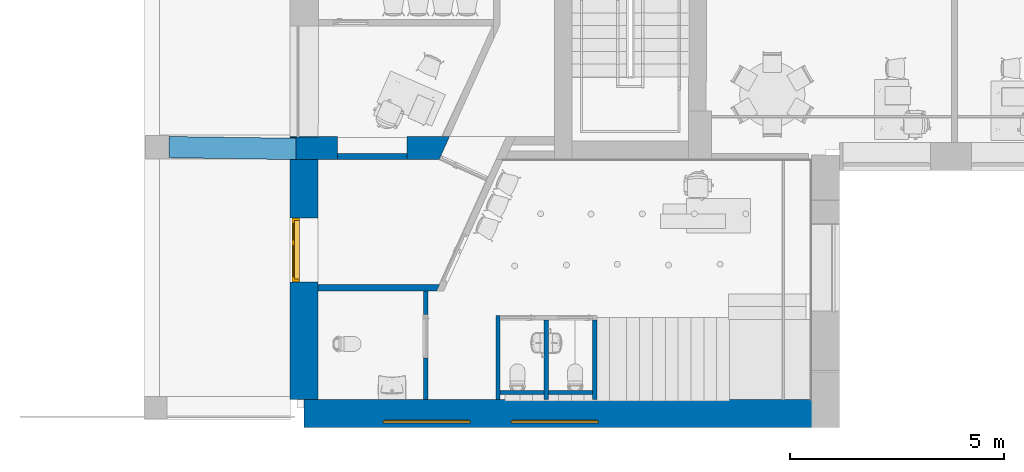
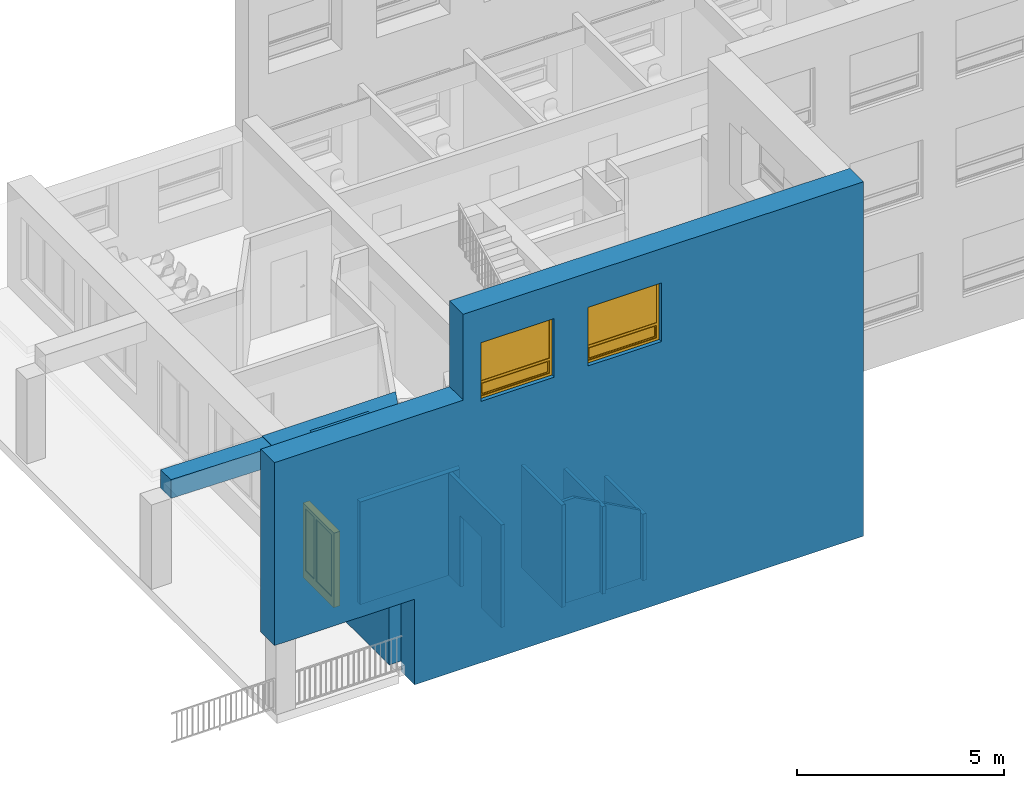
"""IFC2X3 building model written with IfcOpenShell, lengths in millimetres."""

from ifc_helpers import new_model, entity, si_unit, converted_unit, derived_unit, direction, frame, frame_2d, origin, origin_2d_with_axis, place, context, subcontext, project, spatial, polyline, rectangle, outline, extrude, clip, halfspace, bounded_halfspace, faceted_brep, source, transform, mapped, material, material_list, layer, layer_set, layer_usage, type_object, type_shapes, element, fill, save


model = new_model("IFC2X3")

# Units and contexts
model_context = context("Model", 3, precision=0.01, world=origin(), true_north=direction((6.12303176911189e-17, 1.0)))
context_of_model = context(None, 3, precision=0.01, world=origin(), true_north=direction((6.12303176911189e-17, 1.0)))
body_context = subcontext(model_context, "Body", "Model", "MODEL_VIEW")
ifc_project = project(units=[si_unit("LENGTHUNIT", "METRE", prefix="MILLI"), si_unit("AREAUNIT", "SQUARE_METRE"), si_unit("VOLUMEUNIT", "CUBIC_METRE"), converted_unit("PLANEANGLEUNIT", "DEGREE", entity("IfcRatioMeasure", 0.0174532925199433), si_unit("PLANEANGLEUNIT", "RADIAN"), dimensions=[0, 0, 0, 0, 0, 0, 0]), si_unit("MASSUNIT", "GRAM", prefix="KILO"), derived_unit("MASSDENSITYUNIT", [(si_unit("MASSUNIT", "GRAM", prefix="KILO"), 1), (si_unit("LENGTHUNIT", "METRE"), -3)]), si_unit("TIMEUNIT", "SECOND"), si_unit("FREQUENCYUNIT", "HERTZ"), si_unit("THERMODYNAMICTEMPERATUREUNIT", "DEGREE_CELSIUS"), derived_unit("THERMALTRANSMITTANCEUNIT", [(si_unit("MASSUNIT", "GRAM", prefix="KILO"), 1), (si_unit("THERMODYNAMICTEMPERATUREUNIT", "KELVIN"), -1), (si_unit("TIMEUNIT", "SECOND"), -3)]), derived_unit("VOLUMETRICFLOWRATEUNIT", [(si_unit("LENGTHUNIT", "METRE"), 3), (si_unit("TIMEUNIT", "SECOND"), -1)]), si_unit("ELECTRICCURRENTUNIT", "AMPERE"), si_unit("ELECTRICVOLTAGEUNIT", "VOLT"), si_unit("POWERUNIT", "WATT"), si_unit("FORCEUNIT", "NEWTON", prefix="KILO"), si_unit("ILLUMINANCEUNIT", "LUX"), si_unit("LUMINOUSFLUXUNIT", "LUMEN"), si_unit("LUMINOUSINTENSITYUNIT", "CANDELA"), derived_unit("USERDEFINED", [(si_unit("MASSUNIT", "GRAM", prefix="KILO"), -1), (si_unit("LENGTHUNIT", "METRE"), -2), (si_unit("TIMEUNIT", "SECOND"), 3), (si_unit("LUMINOUSFLUXUNIT", "LUMEN"), 1)]), derived_unit("LINEARVELOCITYUNIT", [(si_unit("LENGTHUNIT", "METRE"), 1), (si_unit("TIMEUNIT", "SECOND"), -1)]), si_unit("PRESSUREUNIT", "PASCAL"), derived_unit("USERDEFINED", [(si_unit("LENGTHUNIT", "METRE"), -2), (si_unit("MASSUNIT", "GRAM", prefix="KILO"), 1), (si_unit("TIMEUNIT", "SECOND"), -2)])], contexts=[model_context, context_of_model])

# Site, building, storey
site_placement = place(None, frame((121442.264707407, 135347.995453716, -1800.0)))
site = spatial("IfcSite", under=ifc_project, at=site_placement, Name="Surface", CompositionType="ELEMENT")
building_placement = place(site_placement, origin())
building = spatial("IfcBuilding", under=site, at=building_placement, CompositionType="ELEMENT")
storey_1_placement = place(building_placement, frame((0.0, 0.0, 1800.0)))
storey_1 = spatial("IfcBuildingStorey", under=building, at=storey_1_placement, Name="1 korrus", CompositionType="ELEMENT", Elevation=1800.00000000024)

# Wall, openings
ifc_material_1 = material(Name="__Betoonelement")
ifc_layer_1 = layer(ifc_material_1, 540.0)
ifc_layer_set_1 = layer_set([ifc_layer_1], Name="Basic Wall:54_Betoon 2")
ifc_layer_usage_1 = layer_usage(ifc_layer_set_1, "AXIS2", "NEGATIVE", 270.0)
wall_type_1 = type_object("IfcWallType", Name="Basic Wall:54_Betoon 2", PredefinedType="STANDARD", material=ifc_layer_set_1)
wall_1_placement = place(storey_1_placement, frame((-112155.05905755, -127271.313002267, 0.0), z_axis=(0.0, 0.0, 1.0), x_axis=(-1.0, 0.0, 0.0)))
wall_1 = element("IfcWallStandardCase", 1, at=wall_1_placement, inside=storey_1, type_object=wall_type_1, material=ifc_layer_usage_1, Name="Basic Wall:54_Betoon 2", ObjectType="Basic Wall:54_Betoon 2", context=body_context, shape_type="Clipping", body=[
    clip(extrude(outline(polyline([(0.0, -270.0), (3730.71755296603, -270.0), (3730.71755296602, 270.0), (3070.71755296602, 270.0), (243.760106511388, 270.0), (0.0, -270.0)])), origin(), (0.0, 0.0, 1.0), 3032.0), bounded_halfspace(frame((0.0, -270.0, 3032.0), z_axis=(0.0, 0.0, -1.0), x_axis=(0.0, 1.0, 0.0)), True, frame((0.0, -270.0, 3032.0)), polyline([(0.0, 0.0), (3730.71755296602, 0.0), (3730.71755296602, 540.0), (3070.71755296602, 540.0), (243.760106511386, 540.0), (0.0, 0.0)]))),
])
opening_1_placement = place(wall_1_placement, origin())
element("IfcOpeningElement", 2, at=opening_1_placement, cuts=wall_1, Name="Basic Wall:54_Betoon 2", ObjectType="Opening", context=body_context, shape_type="SweptSolid", body=[
    extrude(rectangle(XDim=2438.4, YDim=1622.3430417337, at=origin_2d_with_axis()), frame((1807.14882785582, -270.0, 1219.2), z_axis=(0.0, 1.0, 0.0), x_axis=(0.0, 0.0, -1.0)), (0.0, 0.0, 1.0), 540.000000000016),
])
opening_2_placement = place(wall_1_placement, origin())
element("IfcOpeningElement", 3, at=opening_2_placement, cuts=wall_1, Name="Basic Wall:54_Betoon 2", ObjectType="Opening", context=body_context, shape_type="SweptSolid", body=[
    extrude(rectangle(XDim=1860.0, YDim=670.000000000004, at=frame_2d((-8.66862137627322e-12, 0.0), x_axis=(0.0, 1.0))), frame((3395.71755296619, -2854.8484318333, 1490.0), z_axis=(0.0, 1.0, 0.0), x_axis=(-1.0, 0.0, 0.0)), (0.0, 0.0, 1.0), 2590.0),
])

# Wall
wall_type_2 = type_object("IfcWallType", Name="Walls 52:Walls 52", PredefinedType="NOTDEFINED")
wall_2_placement = place(storey_1_placement, frame((-118715.335878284, -127540.468096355, 2472.33300325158)))
element("IfcWall", 4, at=wall_2_placement, inside=storey_1, type_object=wall_type_2, Name="Walls 52:Walls 52", ObjectType="Walls 52:Walls 52", context=body_context, shape_type="SweptSolid", body=[
    extrude(outline(polyline([(-1483.24836927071, -249.605204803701), (1490.10306328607, -249.605204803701), (1483.28856120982, 246.678125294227), (-1490.14325522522, 252.532284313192), (-1483.24836927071, -249.605204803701)])), frame((1486.53558543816, 272.967816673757, 0.0), z_axis=(0.0, 0.0, 1.0), x_axis=(-0.999905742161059, 0.0137297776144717, 0.0)), (0.0, 0.0, 1.0), 552.068382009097),
])

# Wall, openings
ifc_material_2 = material(Name="Plaster")
ifc_layer_2 = layer(ifc_material_2, 10.0)
ifc_material_3 = material(Name="Polystyrene, Expanded")
ifc_layer_3 = layer(ifc_material_3, 150.0)
ifc_layer_4 = layer(ifc_material_1, 500.0)
ifc_layer_set_2 = layer_set([ifc_layer_2, ifc_layer_3, ifc_layer_4], Name="Basic Wall:50_Betoon + UUS Soojustus 2")
ifc_layer_usage_2 = layer_usage(ifc_layer_set_2, "AXIS2", "NEGATIVE", 330.0)
wall_type_3 = type_object("IfcWallType", Name="Basic Wall:50_Betoon + UUS Soojustus 2", PredefinedType="STANDARD", material=ifc_layer_set_2)
wall_3_placement = place(storey_1_placement, frame((-103030.469884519, -133480.927165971, -300.0), z_axis=(0.0, 0.0, 1.0), x_axis=(-1.0, 0.0, 0.0)))
wall_3 = element("IfcWallStandardCase", 5, at=wall_3_placement, inside=storey_1, type_object=wall_type_3, material=ifc_layer_usage_2, Name="Basic Wall:50_Betoon + UUS Soojustus 2", ObjectType="Basic Wall:50_Betoon + UUS Soojustus 2", context=body_context, shape_type="SweptSolid", body=[
    extrude(rectangle(XDim=16443.2562224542, YDim=659.999999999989, at=frame_2d((8221.62811122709, 1.02318153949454e-12), x_axis=(-1.0, 0.0))), origin(), (0.0, 0.0, 1.0), 10460.0),
])
opening_3_placement = place(wall_3_placement, origin())
element("IfcOpeningElement", 6, at=opening_3_placement, cuts=wall_3, Name="Basic Wall:50_Betoon + UUS Soojustus 2", ObjectType="Opening", context=body_context, shape_type="SweptSolid", body=[
    extrude(rectangle(XDim=2534.99999999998, YDim=5272.60453583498, at=frame_2d((5.6843418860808e-13, 8.64019966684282e-12), x_axis=(1.0, 0.0))), frame((13806.9539545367, 330.0, 9192.5), z_axis=(0.0, -1.0, 0.0), x_axis=(0.0, 0.0, -1.0)), (0.0, 0.0, 1.0), 660.0),
])
opening_4_placement = place(wall_3_placement, origin())
element("IfcOpeningElement", 7, at=opening_4_placement, cuts=wall_3, Name="Basic Wall:50_Betoon + UUS Soojustus 2", ObjectType="Opening", context=body_context, shape_type="SweptSolid", body=[
    extrude(rectangle(XDim=2525.00000000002, YDim=3917.94949645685, at=frame_2d((8.64019966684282e-12, -5.6843418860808e-13), x_axis=(0.0, 1.0))), frame((14484.2814742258, 330.0, 1262.50000000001), z_axis=(0.0, -1.0, 0.0), x_axis=(-1.0, 0.0, 0.0)), (0.0, 0.0, 1.0), 660.0),
])
opening_5_placement = place(wall_3_placement, frame((5640.05621160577, -330.0, 7715.0)))
opening_5 = element("IfcOpeningElement", 8, at=opening_5_placement, cuts=wall_3, Name="sma_W2:A-1 UUS 2050 x 1730mm Avatav:1", ObjectType="Opening", context=body_context, shape_type="SweptSolid", body=[
    extrude(rectangle(XDim=1730.0, YDim=2050.0, at=frame_2d((865.0, 1025.0), x_axis=(1.0, 0.0))), frame((0.0, 0.0, 0.0), z_axis=(0.0, 1.0, 0.0), x_axis=(0.0, 0.0, 1.0)), (0.0, 0.0, 1.0), 660.0),
])
opening_6_placement = place(wall_3_placement, frame((8630.05621160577, -330.0, 7715.0)))
opening_6 = element("IfcOpeningElement", 9, at=opening_6_placement, cuts=wall_3, Name="sma_W2:A-1 UUS 2050 x 1730mm Avatav:1", ObjectType="Opening", context=body_context, shape_type="SweptSolid", body=[
    extrude(rectangle(XDim=1730.0, YDim=2050.0, at=frame_2d((865.0, 1025.0), x_axis=(1.0, 0.0))), frame((0.0, 0.0, 0.0), z_axis=(0.0, 1.0, 0.0), x_axis=(0.0, 0.0, 1.0)), (0.0, 0.0, 1.0), 660.0),
])

# Storey
storey_2_placement = place(building_placement, frame((0.0, 0.0, 8315.0)))
storey_2 = spatial("IfcBuildingStorey", under=building, at=storey_2_placement, Name="3 korrus", CompositionType="ELEMENT", Elevation=8315.00000000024)

# Window
ifc_material_4 = material(Name="PVC")
ifc_material_5 = material(Name="Glass")
ifc_material_list_1 = material_list([ifc_material_4, ifc_material_5])
ifc_material_list_2 = material_list([ifc_material_4, ifc_material_5])
window_style = type_object("IfcWindowStyle", Name="A-1 UUS 2050 x 1730mm Avatav", ConstructionType="NOTDEFINED", OperationType="NOTDEFINED", ParameterTakesPrecedence=False, Sizeable=False, material=ifc_material_list_2)
shared_shape_1 = source(origin(), body_context, "Body", "Brep", [
    faceted_brep([(0.0, 499.759876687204, 0.0), (2050.0, 499.759876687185, 0.0), (2050.0, 499.759876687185, 1730.0), (0.0, 499.759876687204, 1730.0), (35.0, 499.759876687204, 35.0), (35.0, 499.759876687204, 480.0), (2015.0, 499.759876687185, 480.0), (2015.0, 499.759876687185, 35.0), (1980.0, 499.759876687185, 515.0), (70.0, 499.759876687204, 515.0), (70.0, 499.759876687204, 1660.0), (1980.0, 499.759876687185, 1660.0), (0.0, 549.759876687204, 0.0), (2050.0, 549.759876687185, 0.0), (2050.0, 549.759876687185, 1730.0), (0.0, 549.759876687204, 1730.0), (35.0, 524.759876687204, 35.0), (35.0, 524.759876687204, 480.0), (2015.0, 524.759876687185, 480.0), (2015.0, 524.759876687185, 35.0), (70.0, 549.759876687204, 70.0), (1980.0, 549.759876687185, 70.0), (1980.0, 549.759876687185, 445.0), (70.0, 549.759876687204, 445.0), (1980.0, 549.759876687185, 515.0), (1980.0, 549.759876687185, 1660.0), (70.0, 549.759876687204, 1660.0), (70.0, 549.759876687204, 515.0), (70.0, 524.759876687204, 70.0), (1980.0, 524.759876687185, 70.0), (1980.0, 524.759876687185, 445.0), (70.0, 524.759876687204, 445.0)], [[[0, 1, 2, 3], [4, 5, 6, 7], [8, 9, 10, 11]], [[1, 0, 12, 13]], [[2, 1, 13, 14]], [[0, 3, 15, 12]], [[16, 17, 5, 4]], [[18, 19, 7, 6]], [[19, 16, 4, 7]], [[12, 15, 14, 13], [20, 21, 22, 23], [24, 25, 26, 27]], [[21, 20, 28, 29]], [[22, 21, 29, 30]], [[20, 23, 31, 28]], [[17, 16, 19, 18], [28, 31, 30, 29]], [[3, 2, 14, 15]], [[10, 9, 27, 26]], [[11, 10, 26, 25]], [[8, 11, 25, 24]], [[23, 22, 30, 31]], [[9, 8, 24, 27]], [[17, 18, 6, 5]]]),
    faceted_brep([(105.0, 489.759876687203, 105.0), (1945.0, 489.759876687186, 105.0), (1945.0, 489.759876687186, 410.0), (105.0, 489.759876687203, 410.0), (105.0, 509.759876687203, 105.0), (1945.0, 509.759876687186, 105.0), (1945.0, 509.759876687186, 410.0), (105.0, 509.759876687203, 410.0)], [[[0, 1, 2, 3]], [[1, 0, 4, 5]], [[2, 1, 5, 6]], [[0, 3, 7, 4]], [[4, 7, 6, 5]], [[3, 2, 6, 7]]]),
    faceted_brep([(35.0, 474.759876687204, 35.0), (2015.0, 474.759876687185, 35.0), (2015.0, 474.759876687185, 480.0), (35.0, 474.759876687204, 480.0), (105.0, 474.759876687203, 105.0), (105.0, 474.759876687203, 410.0), (1945.0, 474.759876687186, 410.0), (1945.0, 474.759876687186, 105.0), (35.0, 524.759876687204, 35.0), (2015.0, 524.759876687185, 35.0), (2015.0, 524.759876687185, 480.0), (35.0, 524.759876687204, 480.0), (105.0, 524.759876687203, 105.0), (105.0, 524.759876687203, 410.0), (1945.0, 524.759876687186, 410.0), (1945.0, 524.759876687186, 105.0)], [[[0, 1, 2, 3], [4, 5, 6, 7]], [[1, 0, 8, 9]], [[2, 1, 9, 10]], [[0, 3, 11, 8]], [[5, 4, 12, 13]], [[7, 6, 14, 15]], [[4, 7, 15, 12]], [[8, 11, 10, 9], [12, 15, 14, 13]], [[3, 2, 10, 11]], [[6, 5, 13, 14]]]),
    faceted_brep([(70.0, 514.759876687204, 515.0), (1980.0, 514.759876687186, 515.0), (1980.0, 514.759876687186, 1660.0), (70.0, 514.759876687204, 1660.0), (1980.0, 534.759876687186, 515.0), (1980.0, 534.759876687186, 1660.0), (70.0, 534.759876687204, 1660.0), (70.0, 534.759876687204, 515.0)], [[[0, 1, 2, 3]], [[2, 1, 4, 5]], [[3, 2, 5, 6]], [[0, 3, 6, 7]], [[7, 6, 5, 4]], [[1, 0, 7, 4]]]),
])
type_shapes(window_style, [shared_shape_1])
window_1_placement = place(opening_5_placement, origin())
window_1 = element("IfcWindow", 10, at=window_1_placement, inside=storey_2, type_object=window_style, material=ifc_material_list_1, Name="sma_W2:A-1 UUS 2050 x 1730mm Avatav", ObjectType="A-1 UUS 2050 x 1730mm Avatav", OverallHeight=1730.0, OverallWidth=2050.0, context=body_context, shape_type="MappedRepresentation", body=[
    mapped(shared_shape_1, transform((0.0, 0.0, 0.0), scale=1.0)),
])

fill(opening_5, window_1)

ifc_material_list_3 = material_list([ifc_material_4, ifc_material_5])
window_2_placement = place(opening_6_placement, origin())
window_2 = element("IfcWindow", 11, at=window_2_placement, inside=storey_2, type_object=window_style, material=ifc_material_list_3, Name="sma_W2:A-1 UUS 2050 x 1730mm Avatav", ObjectType="A-1 UUS 2050 x 1730mm Avatav", OverallHeight=1730.0, OverallWidth=2050.0, context=body_context, shape_type="MappedRepresentation", body=[
    mapped(shared_shape_1, transform((0.0, 0.0, 0.0), scale=1.0)),
])

fill(opening_6, window_2)

# Wall, opening, door
ifc_layer_usage_3 = layer_usage(ifc_layer_set_2, "AXIS2", "POSITIVE", -330.0)
wall_4_placement = place(storey_1_placement, frame((-115555.776610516, -127541.313002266, 0.0), z_axis=(0.0, 0.0, 1.0), x_axis=(0.0, -1.0, 0.0)))
wall_4 = element("IfcWallStandardCase", 12, at=wall_4_placement, inside=storey_1, type_object=wall_type_3, material=ifc_layer_usage_3, Name="Basic Wall:50_Betoon + UUS Soojustus 2", ObjectType="Basic Wall:50_Betoon + UUS Soojustus 2", context=body_context, shape_type="Clipping", body=[
    clip(extrude(rectangle(XDim=5609.61416370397, YDim=659.999999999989, at=frame_2d((2804.80708185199, -1.79056769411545e-12), x_axis=(-1.0, 0.0))), origin(), (0.0, 0.0, 1.0), 3032.0), bounded_halfspace(frame((0.0, -330.0, 3032.0), z_axis=(0.0, 0.0, -1.0), x_axis=(1.0, 0.0, 0.0)), True, frame((0.0, -330.0, 3032.0)), polyline([(0.0, 0.0), (5609.61416370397, 0.0), (5609.61416370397, 660.0), (0.0, 660.0), (0.0, 0.0)]))),
])
opening_7_placement = place(wall_4_placement, frame((2855.15156816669, 330.0, 0.0)))
opening_7 = element("IfcOpeningElement", 13, at=opening_7_placement, cuts=wall_4, Name="ULO1 - ulkolasipariovi:1400x2200 VU-2 Välisuks:1", ObjectType="Opening", context=body_context, shape_type="SweptSolid", body=[
    extrude(rectangle(XDim=2200.0, YDim=1490.0, at=frame_2d((1100.0, 745.000000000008), x_axis=(1.0, 0.0))), frame((0.0, 0.0, 0.0), z_axis=(0.0, -1.0, 0.0), x_axis=(0.0, 0.0, 1.0)), (0.0, 0.0, 1.0), 660.0),
])
ifc_material_6 = material(Name="Metal - Paint Finish - Grey")
ifc_material_7 = material(Name="Metal")
ifc_material_8 = material(Name="Lasi - 1 lasilevy, kuvio")
ifc_material_9 = material(Name="RAL Classic 9010, matta, ruisku")
ifc_material_list_4 = material_list([ifc_material_6, ifc_material_7, ifc_material_8, ifc_material_9])
ifc_material_list_5 = material_list([ifc_material_6, ifc_material_7, ifc_material_8, ifc_material_9])
door_style = type_object("IfcDoorStyle", Name="1400x2200 VU-2 Välisuks", ConstructionType="USERDEFINED", OperationType="DOUBLE_DOOR_SINGLE_SWING", ParameterTakesPrecedence=False, Sizeable=False, material=ifc_material_list_5)
shared_shape_2 = source(origin(), body_context, "Body", "SweptSolid", [
    extrude(outline(polyline([(685.0, -1085.0), (745.0, -1085.0), (745.0, 1115.0), (-745.0, 1115.0), (-745.0, -1085.0), (-685.0, -1085.0), (-685.0, 1055.0), (685.0, 1055.0), (685.0, -1085.0)])), frame((1024.99997999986, 136.0, 1085.0), z_axis=(0.0, -1.0, 0.0), x_axis=(1.0, 0.0, 0.0)), (0.0, 0.0, 1.0), 175.0),
    extrude(rectangle(XDim=1369.99999999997, YDim=174.999999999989, at=origin_2d_with_axis()), frame((1024.99997999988, 48.4999999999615, 0.0)), (0.0, 0.0, 1.0), 15.0),
    extrude(rectangle(XDim=750.000000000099, YDim=20.0000000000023, at=origin_2d_with_axis()), frame((764.999979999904, 106.0, 265.0)), (0.0, 0.0, 1.0), 1825.0),
    extrude(rectangle(XDim=419.999999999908, YDim=20.0000000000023, at=frame_2d((-2.8421709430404e-14, 0.0), x_axis=(1.0, 0.0))), frame((1449.99997999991, 106.0, 265.0)), (0.0, 0.0, 1.0), 1825.0),
    extrude(outline(polyline([(-1062.5, -425.0), (1062.5, -425.0), (1062.5, 425.0), (-1062.5, 425.0), (-1062.5, -425.0)]), holes=[polyline([(-1012.5, 375.0), (812.499999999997, 375.0), (812.499999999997, -375.0), (-1012.5, -375.0), (-1012.5, 375.0)])]), frame((764.999979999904, 136.0, 1077.5), z_axis=(0.0, -1.0, 0.0), x_axis=(0.0, 0.0, -1.0)), (0.0, 0.0, 1.0), 60.0000000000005),
    extrude(outline(polyline([(-1062.5, -260.0), (1062.5, -260.0), (1062.5, 260.0), (-1062.5, 260.0), (-1062.5, -260.0)]), holes=[polyline([(-1012.5, 210.0), (812.499999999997, 210.0), (812.499999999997, -210.0), (-1012.5, -210.0), (-1012.5, 210.0)])]), frame((1449.99997999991, 136.0, 1077.5), z_axis=(0.0, -1.0, 0.0), x_axis=(0.0, 0.0, -1.0)), (0.0, 0.0, 1.0), 60.0000000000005),
])
type_shapes(door_style, [shared_shape_2])
door_placement = place(opening_7_placement, frame((279.999979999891, -480.0, 0.0), z_axis=(0.0, 0.0, 1.0), x_axis=(-1.0, 0.0, 0.0)))
door = element("IfcDoor", 14, at=door_placement, inside=storey_1, type_object=door_style, material=ifc_material_list_4, Name="ULO1 - ulkolasipariovi:1400x2200 VU-2 Välisuks", ObjectType="1400x2200 VU-2 Välisuks", OverallHeight=2200.0, OverallWidth=1490.00000000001, context=body_context, shape_type="MappedRepresentation", body=[
    mapped(shared_shape_2, transform((0.0, 0.0, 0.0), scale=1.0)),
])
fill(opening_7, door)

# Walls
ifc_layer_5 = layer(ifc_material_2, 10.0)
ifc_material_10 = material(Name="EST. Müüritis. Väikeplokk. Kergkruusplokk")
ifc_layer_6 = layer(ifc_material_10, 130.0)
ifc_layer_7 = layer(ifc_material_2, 10.0)
ifc_layer_set_3 = layer_set([ifc_layer_5, ifc_layer_6, ifc_layer_7], Name="Basic Wall:15_FIBO")
ifc_layer_usage_4 = layer_usage(ifc_layer_set_3, "AXIS2", "POSITIVE", -75.0)
wall_type_4 = type_object("IfcWallType", Name="Basic Wall:15_FIBO", PredefinedType="STANDARD", material=ifc_layer_set_3)
wall_5_placement = place(storey_1_placement, frame((-114773.379406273, -127465.934130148, 0.0)))
element("IfcWallStandardCase", 15, at=wall_5_placement, inside=storey_1, type_object=wall_type_4, material=ifc_layer_usage_4, Name="Basic Wall:15_FIBO", ObjectType="Basic Wall:15_FIBO", context=body_context, shape_type="Clipping", body=[
    clip(extrude(rectangle(XDim=1624.91226469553, YDim=150.000000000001, at=frame_2d((812.456132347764, 0.0), x_axis=(-1.0, 0.0))), origin(), (0.0, 0.0, 1.0), 3032.0), bounded_halfspace(frame((0.0, -75.0, 3032.0), z_axis=(0.0, 0.0, -1.0), x_axis=(0.0, -1.0, 0.0)), True, frame((0.0, -75.0, 3032.0)), polyline([(0.0, 0.0), (1624.91226469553, 0.0), (1624.91226469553, 150.0), (0.0, 150.0), (0.0, 0.0)]))),
])
ifc_layer_usage_5 = layer_usage(ifc_layer_set_3, "AXIS2", "POSITIVE", -75.0)
wall_6_placement = place(storey_1_placement, frame((-112383.912551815, -130531.464570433, 0.0), z_axis=(0.0, 0.0, 1.0), x_axis=(-1.0, 0.0, 0.0)))
element("IfcWallStandardCase", 16, at=wall_6_placement, inside=storey_1, type_object=wall_type_4, material=ifc_layer_usage_5, Name="Basic Wall:15_FIBO", ObjectType="Basic Wall:15_FIBO", context=body_context, shape_type="Clipping", body=[
    clip(extrude(outline(polyline([(2841.86405870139, -75.0), (2841.86405870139, 75.0), (375.098083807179, 75.0), (275.098083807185, 75.0), (67.7111406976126, 75.0), (0.0, -75.0), (2841.86405870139, -75.0)])), origin(), (0.0, 0.0, 1.0), 3032.0), bounded_halfspace(frame((0.0, -75.0, 3032.0), z_axis=(0.0, 0.0, -1.0), x_axis=(0.0, 1.0, 0.0)), True, frame((0.0, -75.0, 3032.0)), polyline([(0.0, 0.0), (2841.86405870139, 0.0), (2841.86405870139, 150.0), (375.098083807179, 150.0), (275.098083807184, 150.0), (67.7111406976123, 150.0), (0.0, 0.0)]))),
])

# Wall, opening
ifc_layer_8 = layer(ifc_material_2, 5.0)
ifc_material_11 = material(Name="CMU, Lightweight")
ifc_layer_9 = layer(ifc_material_11, 90.0)
ifc_layer_10 = layer(ifc_material_2, 5.0)
ifc_layer_set_4 = layer_set([ifc_layer_8, ifc_layer_9, ifc_layer_10], Name="Basic Wall:10_FIBO + 2xKROHV")
ifc_layer_usage_6 = layer_usage(ifc_layer_set_4, "AXIS2", "POSITIVE", -50.0)
wall_type_5 = type_object("IfcWallType", Name="Basic Wall:10_FIBO + 2xKROHV", PredefinedType="STANDARD", material=ifc_layer_set_4)
wall_7_placement = place(storey_1_placement, frame((-112709.010635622, -130606.464570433, 0.0), z_axis=(0.0, 0.0, 1.0), x_axis=(0.0, -1.0, 0.0)))
wall_7 = element("IfcWallStandardCase", 17, at=wall_7_placement, inside=storey_1, type_object=wall_type_5, material=ifc_layer_usage_6, Name="Basic Wall:10_FIBO + 2xKROHV", ObjectType="Basic Wall:10_FIBO + 2xKROHV", context=body_context, shape_type="Clipping", body=[
    clip(extrude(rectangle(XDim=2544.46259553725, YDim=100.000000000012, at=frame_2d((1272.23129776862, 0.0), x_axis=(-1.0, 0.0))), origin(), (0.0, 0.0, 1.0), 3032.0), bounded_halfspace(frame((0.0, -50.0, 3032.0), z_axis=(0.0, 0.0, -1.0), x_axis=(1.0, 0.0, 0.0)), True, frame((0.0, -50.0, 3032.0)), polyline([(0.0, 0.0), (2544.46259553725, 0.0), (2544.46259553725, 100.0), (0.0, 100.0), (0.0, 0.0)]))),
])
opening_8_placement = place(wall_7_placement, frame((560.0, -50.0, 0.0)))
element("IfcOpeningElement", 18, at=opening_8_placement, cuts=wall_7, Name="sma_D01:1010 x 2110_SU-05 Siseuks:1", ObjectType="Opening", context=body_context, shape_type="SweptSolid", body=[
    extrude(rectangle(XDim=2099.99999999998, YDim=1010.0, at=frame_2d((1049.99999999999, 505.0), x_axis=(1.0, 0.0))), frame((0.0, 0.0, 0.0), z_axis=(0.0, 1.0, 0.0), x_axis=(0.0, 0.0, 1.0)), (0.0, 0.0, 1.0), 100.0),
])

ifc_layer_usage_7 = layer_usage(ifc_layer_set_4, "AXIS2", "NEGATIVE", 50.0)
wall_8_placement = place(storey_1_placement, frame((-111019.001080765, -133150.92716597, 0.0), z_axis=(0.0, 0.0, 1.0), x_axis=(0.0, 1.0, 0.0)))
wall_8 = element("IfcWallStandardCase", 19, at=wall_8_placement, inside=storey_1, type_object=wall_type_5, material=ifc_layer_usage_7, Name="Basic Wall:10_FIBO + 2xKROHV", ObjectType="Basic Wall:10_FIBO + 2xKROHV", context=body_context, shape_type="SweptSolid", body=[
    extrude(rectangle(XDim=1964.99999999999, YDim=100.000000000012, at=frame_2d((982.499999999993, 0.0), x_axis=(-1.0, 0.0))), origin(), (0.0, 0.0, 1.0), 3025.0),
])
opening_9_placement = place(wall_8_placement, origin())
element("IfcOpeningElement", 20, at=opening_9_placement, cuts=wall_8, Name="Basic Wall:10_FIBO + 2xKROHV", ObjectType="Opening", context=body_context, shape_type="SweptSolid", body=[
    extrude(rectangle(XDim=2099.99999999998, YDim=99.9999999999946, at=frame_2d((8.66506866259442e-12, 3.41060513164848e-13), x_axis=(0.0, 1.0))), frame((1915.0, -860.0, 1050.0), z_axis=(0.0, 1.0, 0.0), x_axis=(-1.0, 0.0, 0.0)), (0.0, 0.0, 1.0), 810.000000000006),
])

# Walls
ifc_layer_usage_8 = layer_usage(ifc_layer_set_4, "AXIS2", "NEGATIVE", 50.0)
wall_9_placement = place(storey_1_placement, frame((-108758.987963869, -131285.927165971, 0.0), z_axis=(0.0, 0.0, 1.0), x_axis=(0.0, -1.0, 0.0)))
element("IfcWallStandardCase", 21, at=wall_9_placement, inside=storey_1, type_object=wall_type_5, material=ifc_layer_usage_8, Name="Basic Wall:10_FIBO + 2xKROHV", ObjectType="Basic Wall:10_FIBO + 2xKROHV", context=body_context, shape_type="SweptSolid", body=[
    extrude(rectangle(XDim=1864.99999999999, YDim=100.000000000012, at=frame_2d((932.499999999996, 0.0), x_axis=(-1.0, 0.0))), origin(), (0.0, 0.0, 1.0), 1966.55955795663),
])
ifc_layer_usage_9 = layer_usage(ifc_layer_set_4, "AXIS2", "POSITIVE", -50.0)
wall_10_placement = place(storey_1_placement, frame((-109888.994234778, -131285.927165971, 0.0), z_axis=(0.0, 0.0, 1.0), x_axis=(0.0, -1.0, 0.0)))
element("IfcWallStandardCase", 22, at=wall_10_placement, inside=storey_1, type_object=wall_type_5, material=ifc_layer_usage_9, Name="Basic Wall:10_FIBO + 2xKROHV", ObjectType="Basic Wall:10_FIBO + 2xKROHV", context=body_context, shape_type="SweptSolid", body=[
    extrude(rectangle(XDim=1864.99999999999, YDim=100.000000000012, at=frame_2d((932.499999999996, 0.0), x_axis=(-1.0, 0.0))), origin(), (0.0, 0.0, 1.0), 2583.7281514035),
])
ifc_material_12 = material(Name="EST. Ehitusplaat. Kipsplaat")
ifc_layer_11 = layer(ifc_material_12, 12.5)
ifc_material_13 = material(Name="EST. Metall. Teras. Tsingitud")
ifc_layer_12 = layer(ifc_material_13, 75.0)
ifc_layer_set_5 = layer_set([ifc_layer_11, ifc_layer_12], Name="Basic Wall:WC_tagasein_ metallkarkassein 100(12.5+75)")
ifc_layer_usage_10 = layer_usage(ifc_layer_set_5, "AXIS2", "NEGATIVE", 43.75)
wall_type_6 = type_object("IfcWallType", Name="Basic Wall:WC_tagasein_ metallkarkassein 100(12.5+75)", PredefinedType="STANDARD", material=ifc_layer_set_5)
wall_11_placement = place(storey_1_placement, frame((-110969.001080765, -132987.177165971, 0.0)))
element("IfcWallStandardCase", 23, at=wall_11_placement, inside=storey_1, type_object=wall_type_6, material=ifc_layer_usage_10, Name="Basic Wall:WC_tagasein_ metallkarkassein 100(12.5+75)", ObjectType="Basic Wall:WC_tagasein_ metallkarkassein 100(12.5+75)", context=body_context, shape_type="Clipping", body=[
    clip(clip(extrude(rectangle(XDim=1030.00684598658, YDim=87.5000000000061, at=frame_2d((515.003422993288, 0.0), x_axis=(-1.0, 0.0))), origin(), (0.0, 0.0, 1.0), 3025.0), halfspace(frame((0.0, -43.750000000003, 3025.0), z_axis=(0.0, 0.0, 1.0), x_axis=(0.0, 1.0, 0.0)), False)), halfspace(frame((341.410382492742, -43.750000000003, 3025.0), z_axis=(0.484809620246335, 0.0, 0.874619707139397), x_axis=(0.0, 1.0, 0.0)), False)),
])
ifc_layer_usage_11 = layer_usage(ifc_layer_set_5, "AXIS2", "NEGATIVE", 43.75)
wall_12_placement = place(storey_1_placement, frame((-109838.994234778, -132987.177165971, 0.0)))
element("IfcWallStandardCase", 24, at=wall_12_placement, inside=storey_1, type_object=wall_type_6, material=ifc_layer_usage_11, Name="Basic Wall:WC_tagasein_ metallkarkassein 100(12.5+75)", ObjectType="Basic Wall:WC_tagasein_ metallkarkassein 100(12.5+75)", context=body_context, shape_type="Clipping", body=[
    clip(extrude(rectangle(XDim=1030.00627090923, YDim=87.5000000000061, at=frame_2d((515.003135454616, 0.0), x_axis=(-1.0, 0.0))), origin(), (0.0, 0.0, 1.0), 2587.87384234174), halfspace(frame((0.0, -43.750000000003, 2587.87384234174), z_axis=(0.484809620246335, 0.0, 0.874619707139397), x_axis=(0.0, 1.0, 0.0)), False)),
])

save(model, "model.ifc")
